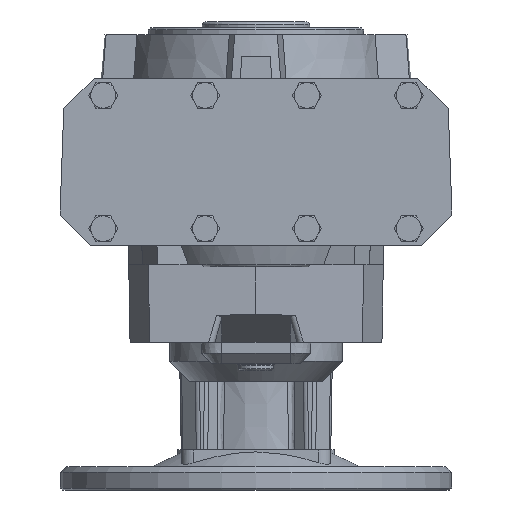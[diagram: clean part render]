
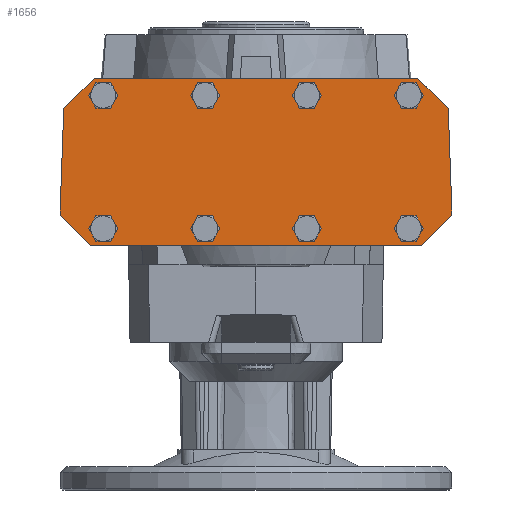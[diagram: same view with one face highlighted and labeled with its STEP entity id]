
A CAD part, front view. The second image highlights one B-rep face of the part: STEP entity #1656.
In plain terms, the highlighted planar face has unit normal (0, -1, 0).
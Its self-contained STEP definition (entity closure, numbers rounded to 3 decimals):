
#1656 = ADVANCED_FACE( '', ( #3990, #3991, #3992, #3993, #3994, #3995, #3996, #3997, #3998 ), #3999, .F. );
#3990 = FACE_BOUND( '', #7222, .T. );
#3991 = FACE_BOUND( '', #7223, .T. );
#3992 = FACE_BOUND( '', #7224, .T. );
#3993 = FACE_BOUND( '', #7225, .T. );
#3994 = FACE_BOUND( '', #7226, .T. );
#3995 = FACE_BOUND( '', #7227, .T. );
#3996 = FACE_BOUND( '', #7228, .T. );
#3997 = FACE_BOUND( '', #7229, .T. );
#3998 = FACE_OUTER_BOUND( '', #7230, .T. );
#3999 = PLANE( '', #7231 );
#7222 = EDGE_LOOP( '', ( #12304 ) );
#7223 = EDGE_LOOP( '', ( #12305 ) );
#7224 = EDGE_LOOP( '', ( #12306 ) );
#7225 = EDGE_LOOP( '', ( #12307 ) );
#7226 = EDGE_LOOP( '', ( #12308 ) );
#7227 = EDGE_LOOP( '', ( #12309 ) );
#7228 = EDGE_LOOP( '', ( #12310 ) );
#7229 = EDGE_LOOP( '', ( #12311 ) );
#7230 = EDGE_LOOP( '', ( #12312, #12313, #12314, #12315, #12316, #12317, #12318, #12319, #12320, #12321 ) );
#7231 = AXIS2_PLACEMENT_3D( '', #12322, #12323, #12324 );
#12304 = ORIENTED_EDGE( '', *, *, #18880, .T. );
#12305 = ORIENTED_EDGE( '', *, *, #17587, .T. );
#12306 = ORIENTED_EDGE( '', *, *, #17721, .T. );
#12307 = ORIENTED_EDGE( '', *, *, #18881, .T. );
#12308 = ORIENTED_EDGE( '', *, *, #18882, .T. );
#12309 = ORIENTED_EDGE( '', *, *, #18883, .T. );
#12310 = ORIENTED_EDGE( '', *, *, #18256, .T. );
#12311 = ORIENTED_EDGE( '', *, *, #18065, .T. );
#12312 = ORIENTED_EDGE( '', *, *, #18884, .F. );
#12313 = ORIENTED_EDGE( '', *, *, #18885, .T. );
#12314 = ORIENTED_EDGE( '', *, *, #18886, .F. );
#12315 = ORIENTED_EDGE( '', *, *, #18887, .F. );
#12316 = ORIENTED_EDGE( '', *, *, #18888, .T. );
#12317 = ORIENTED_EDGE( '', *, *, #18889, .F. );
#12318 = ORIENTED_EDGE( '', *, *, #18890, .T. );
#12319 = ORIENTED_EDGE( '', *, *, #18891, .F. );
#12320 = ORIENTED_EDGE( '', *, *, #18892, .F. );
#12321 = ORIENTED_EDGE( '', *, *, #18893, .T. );
#12322 = CARTESIAN_POINT( '', ( 100., -95., -107.5 ) );
#12323 = DIRECTION( '', ( 0., 1., 0. ) );
#12324 = DIRECTION( '', ( 1., 0., 0. ) );
#17587 = EDGE_CURVE( '', #20518, #20518, #20519, .T. );
#17721 = EDGE_CURVE( '', #20750, #20750, #20751, .T. );
#18065 = EDGE_CURVE( '', #21328, #21328, #21329, .T. );
#18256 = EDGE_CURVE( '', #21652, #21652, #21653, .T. );
#18880 = EDGE_CURVE( '', #22644, #22644, #22645, .T. );
#18881 = EDGE_CURVE( '', #22646, #22646, #22647, .T. );
#18882 = EDGE_CURVE( '', #22648, #22648, #22649, .T. );
#18883 = EDGE_CURVE( '', #22650, #22650, #22651, .T. );
#18884 = EDGE_CURVE( '', #22652, #22653, #22654, .T. );
#18885 = EDGE_CURVE( '', #22652, #22655, #22656, .T. );
#18886 = EDGE_CURVE( '', #22657, #22655, #22658, .F. );
#18887 = EDGE_CURVE( '', #22659, #22657, #22660, .F. );
#18888 = EDGE_CURVE( '', #22659, #22661, #22662, .T. );
#18889 = EDGE_CURVE( '', #22663, #22661, #22664, .T. );
#18890 = EDGE_CURVE( '', #22663, #22665, #22666, .T. );
#18891 = EDGE_CURVE( '', #22667, #22665, #22668, .F. );
#18892 = EDGE_CURVE( '', #22669, #22667, #22670, .F. );
#18893 = EDGE_CURVE( '', #22669, #22653, #22671, .T. );
#20518 = VERTEX_POINT( '', #24808 );
#20519 = CIRCLE( '', #24809, 5.7 );
#20750 = VERTEX_POINT( '', #25120 );
#20751 = CIRCLE( '', #25121, 5.7 );
#21328 = VERTEX_POINT( '', #26042 );
#21329 = CIRCLE( '', #26043, 5.7 );
#21652 = VERTEX_POINT( '', #26522 );
#21653 = CIRCLE( '', #26523, 5.7 );
#22644 = VERTEX_POINT( '', #28201 );
#22645 = CIRCLE( '', #28202, 5.7 );
#22646 = VERTEX_POINT( '', #28203 );
#22647 = CIRCLE( '', #28204, 5.7 );
#22648 = VERTEX_POINT( '', #28205 );
#22649 = CIRCLE( '', #28206, 5.7 );
#22650 = VERTEX_POINT( '', #28207 );
#22651 = CIRCLE( '', #28208, 5.7 );
#22652 = VERTEX_POINT( '', #28209 );
#22653 = VERTEX_POINT( '', #28210 );
#22654 = LINE( '', #28211, #28212 );
#22655 = VERTEX_POINT( '', #28213 );
#22656 = LINE( '', #28214, #28215 );
#22657 = VERTEX_POINT( '', #28216 );
#22658 = LINE( '', #28217, #28218 );
#22659 = VERTEX_POINT( '', #28219 );
#22660 = LINE( '', #28220, #28221 );
#22661 = VERTEX_POINT( '', #28222 );
#22662 = LINE( '', #28223, #28224 );
#22663 = VERTEX_POINT( '', #28225 );
#22664 = LINE( '', #28226, #28227 );
#22665 = VERTEX_POINT( '', #28228 );
#22666 = LINE( '', #28229, #28230 );
#22667 = VERTEX_POINT( '', #28231 );
#22668 = LINE( '', #28232, #28233 );
#22669 = VERTEX_POINT( '', #28234 );
#22670 = LINE( '', #28235, #28236 );
#22671 = LINE( '', #28237, #28238 );
#24808 = CARTESIAN_POINT( '', ( -78., -95., -93.3 ) );
#24809 = AXIS2_PLACEMENT_3D( '', #31722, #31723, #31724 );
#25120 = CARTESIAN_POINT( '', ( -26., -95., -93.3 ) );
#25121 = AXIS2_PLACEMENT_3D( '', #31888, #31889, #31890 );
#26042 = CARTESIAN_POINT( '', ( -26., -95., -25.3 ) );
#26043 = AXIS2_PLACEMENT_3D( '', #32263, #32264, #32265 );
#26522 = CARTESIAN_POINT( '', ( 26., -95., -25.3 ) );
#26523 = AXIS2_PLACEMENT_3D( '', #32467, #32468, #32469 );
#28201 = CARTESIAN_POINT( '', ( -78., -95., -25.3 ) );
#28202 = AXIS2_PLACEMENT_3D( '', #33119, #33120, #33121 );
#28203 = CARTESIAN_POINT( '', ( 26., -95., -93.3 ) );
#28204 = AXIS2_PLACEMENT_3D( '', #33122, #33123, #33124 );
#28205 = CARTESIAN_POINT( '', ( 78., -95., -93.3 ) );
#28206 = AXIS2_PLACEMENT_3D( '', #33125, #33126, #33127 );
#28207 = CARTESIAN_POINT( '', ( 78., -95., -25.3 ) );
#28208 = AXIS2_PLACEMENT_3D( '', #33128, #33129, #33130 );
#28209 = CARTESIAN_POINT( '', ( -82.66, -95., -22.5 ) );
#28210 = CARTESIAN_POINT( '', ( 82.66, -95., -22.5 ) );
#28211 = CARTESIAN_POINT( '', ( -100., -95., -22.5 ) );
#28212 = VECTOR( '', #33131, 1000. );
#28213 = CARTESIAN_POINT( '', ( -98.184, -95., -37.491 ) );
#28214 = CARTESIAN_POINT( '', ( -82.66, -95., -22.5 ) );
#28215 = VECTOR( '', #33132, 1000. );
#28216 = CARTESIAN_POINT( '', ( -100., -95., -89.5 ) );
#28217 = CARTESIAN_POINT( '', ( -100., -95., -89.5 ) );
#28218 = VECTOR( '', #33133, 1000. );
#28219 = CARTESIAN_POINT( '', ( -99.895, -95., -92.509 ) );
#28220 = CARTESIAN_POINT( '', ( -100., -95., -89.5 ) );
#28221 = VECTOR( '', #33134, 1000. );
#28222 = CARTESIAN_POINT( '', ( -84.371, -95., -107.5 ) );
#28223 = CARTESIAN_POINT( '', ( -99.895, -95., -92.509 ) );
#28224 = VECTOR( '', #33135, 1000. );
#28225 = CARTESIAN_POINT( '', ( 84.371, -95., -107.5 ) );
#28226 = CARTESIAN_POINT( '', ( 100., -95., -107.5 ) );
#28227 = VECTOR( '', #33136, 1000. );
#28228 = CARTESIAN_POINT( '', ( 99.895, -95., -92.509 ) );
#28229 = CARTESIAN_POINT( '', ( 84.371, -95., -107.5 ) );
#28230 = VECTOR( '', #33137, 1000. );
#28231 = CARTESIAN_POINT( '', ( 100., -95., -89.5 ) );
#28232 = CARTESIAN_POINT( '', ( 100., -95., -89.5 ) );
#28233 = VECTOR( '', #33138, 1000. );
#28234 = CARTESIAN_POINT( '', ( 98.184, -95., -37.491 ) );
#28235 = CARTESIAN_POINT( '', ( 100., -95., -89.5 ) );
#28236 = VECTOR( '', #33139, 1000. );
#28237 = CARTESIAN_POINT( '', ( 98.184, -95., -37.491 ) );
#28238 = VECTOR( '', #33140, 1000. );
#31722 = CARTESIAN_POINT( '', ( -78., -95., -99. ) );
#31723 = DIRECTION( '', ( 0., 1., 0. ) );
#31724 = DIRECTION( '', ( 0., 0., 1. ) );
#31888 = CARTESIAN_POINT( '', ( -26., -95., -99. ) );
#31889 = DIRECTION( '', ( 0., 1., 0. ) );
#31890 = DIRECTION( '', ( 0., 0., 1. ) );
#32263 = CARTESIAN_POINT( '', ( -26., -95., -31. ) );
#32264 = DIRECTION( '', ( 0., 1., 0. ) );
#32265 = DIRECTION( '', ( 0., 0., 1. ) );
#32467 = CARTESIAN_POINT( '', ( 26., -95., -31. ) );
#32468 = DIRECTION( '', ( 0., 1., 0. ) );
#32469 = DIRECTION( '', ( 0., 0., 1. ) );
#33119 = CARTESIAN_POINT( '', ( -78., -95., -31. ) );
#33120 = DIRECTION( '', ( 0., 1., 0. ) );
#33121 = DIRECTION( '', ( 0., 0., 1. ) );
#33122 = CARTESIAN_POINT( '', ( 26., -95., -99. ) );
#33123 = DIRECTION( '', ( 0., 1., 0. ) );
#33124 = DIRECTION( '', ( 0., 0., 1. ) );
#33125 = CARTESIAN_POINT( '', ( 78., -95., -99. ) );
#33126 = DIRECTION( '', ( 0., 1., 0. ) );
#33127 = DIRECTION( '', ( 0., 0., 1. ) );
#33128 = CARTESIAN_POINT( '', ( 78., -95., -31. ) );
#33129 = DIRECTION( '', ( 0., 1., 0. ) );
#33130 = DIRECTION( '', ( 0., 0., 1. ) );
#33131 = DIRECTION( '', ( 1., 0., 0. ) );
#33132 = DIRECTION( '', ( -0.719, 0., -0.695 ) );
#33133 = DIRECTION( '', ( -0.035, 0., -0.999 ) );
#33134 = DIRECTION( '', ( 0.035, 0., -0.999 ) );
#33135 = DIRECTION( '', ( 0.719, 0., -0.695 ) );
#33136 = DIRECTION( '', ( -1., 0., 0. ) );
#33137 = DIRECTION( '', ( 0.719, 0., 0.695 ) );
#33138 = DIRECTION( '', ( 0.035, 0., 0.999 ) );
#33139 = DIRECTION( '', ( -0.035, 0., 0.999 ) );
#33140 = DIRECTION( '', ( -0.719, 0., 0.695 ) );
